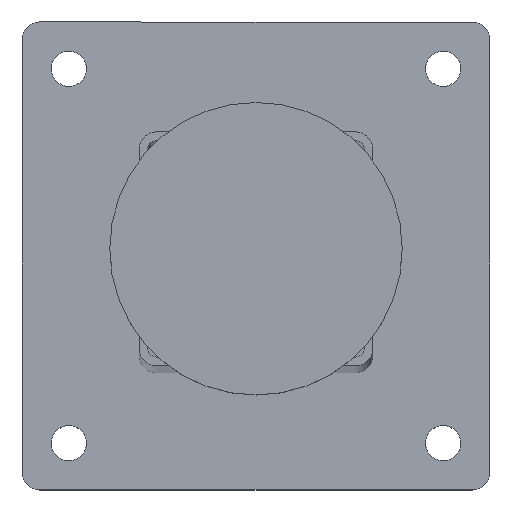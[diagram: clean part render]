
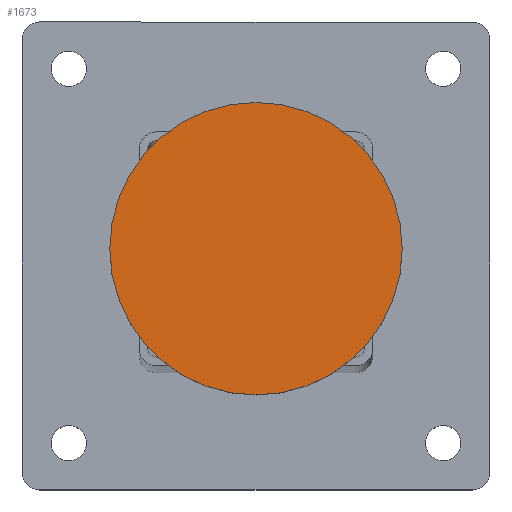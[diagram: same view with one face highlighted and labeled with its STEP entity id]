
A CAD part, top view. The second image highlights one B-rep face of the part: STEP entity #1673.
In plain terms, the highlighted planar face has unit normal (0, 0, 1).
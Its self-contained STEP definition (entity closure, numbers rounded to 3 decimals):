
#22 = CARTESIAN_POINT ( 'NONE',  ( 0., 0., 712. ) ) ;
#336 = CARTESIAN_POINT ( 'NONE',  ( 0., 0., 712. ) ) ;
#351 = DIRECTION ( 'NONE',  ( -1., 0., 0. ) ) ;
#385 = DIRECTION ( 'NONE',  ( -1., 0., 0. ) ) ;
#415 = AXIS2_PLACEMENT_3D ( 'NONE', #1037, #1155, #1025 ) ;
#448 = ORIENTED_EDGE ( 'NONE', *, *, #565, .F. ) ;
#565 = EDGE_CURVE ( 'NONE', #1591, #1671, #781, .T. ) ;
#596 = CARTESIAN_POINT ( 'NONE',  ( -25., 0., 712. ) ) ;
#709 = AXIS2_PLACEMENT_3D ( 'NONE', #22, #1684, #385 ) ;
#781 = CIRCLE ( 'NONE', #709, 25. ) ;
#816 = ORIENTED_EDGE ( 'NONE', *, *, #990, .F. ) ;
#990 = EDGE_CURVE ( 'NONE', #1671, #1591, #1210, .T. ) ;
#1000 = DIRECTION ( 'NONE',  ( 0., 0., -1. ) ) ;
#1025 = DIRECTION ( 'NONE',  ( -1., 0., 0. ) ) ;
#1037 = CARTESIAN_POINT ( 'NONE',  ( 0., 0., 712. ) ) ;
#1041 = EDGE_LOOP ( 'NONE', ( #448, #816 ) ) ;
#1112 = CARTESIAN_POINT ( 'NONE',  ( 25., 0., 712. ) ) ;
#1115 = FACE_OUTER_BOUND ( 'NONE', #1041, .T. ) ;
#1130 = PLANE ( 'NONE',  #1682 ) ;
#1155 = DIRECTION ( 'NONE',  ( 0., 0., -1. ) ) ;
#1210 = CIRCLE ( 'NONE', #415, 25. ) ;
#1591 = VERTEX_POINT ( 'NONE', #1112 ) ;
#1671 = VERTEX_POINT ( 'NONE', #596 ) ;
#1673 = ADVANCED_FACE ( 'NONE', ( #1115 ), #1130, .F. ) ;
#1682 = AXIS2_PLACEMENT_3D ( 'NONE', #336, #1000, #351 ) ;
#1684 = DIRECTION ( 'NONE',  ( 0., 0., -1. ) ) ;
